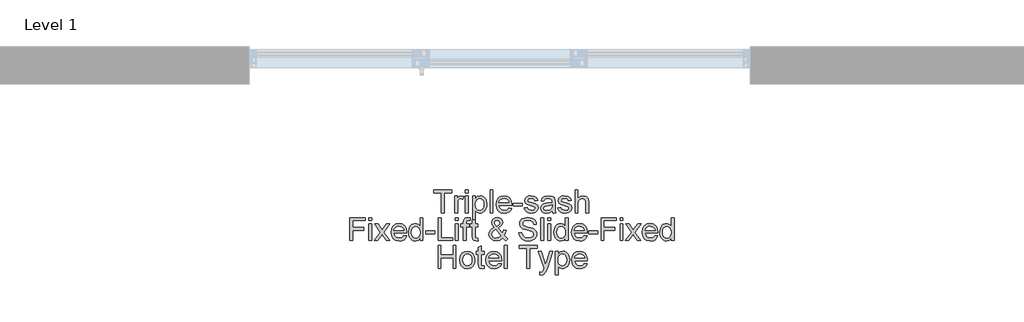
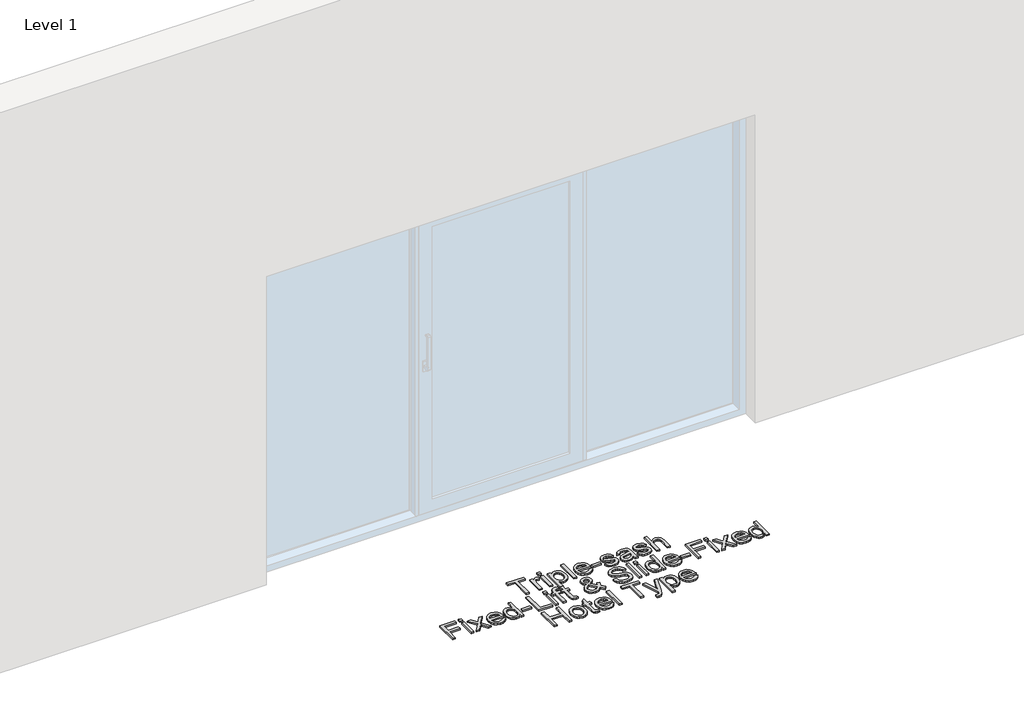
# One storey, part 11 of 17: 1 proxy.
"""IFC4 building model written with IfcOpenShell, lengths in millimetres."""

from ifc_helpers import new_model, si_unit, origin, origin_with_axes, place, context, project, spatial, polyline, outline, extrude, element, save

model = new_model("IFC4")

# Units and contexts
model_context = context("Model", 3, world=origin())
ifc_project = project(units=[si_unit("LENGTHUNIT", "METRE", prefix="MILLI")], contexts=[model_context])

# Site, building, storey
site = spatial("IfcSite", under=ifc_project)
building = spatial("IfcBuilding", under=site)
storey = spatial("IfcBuildingStorey", under=building, Name="Level 1", Elevation=0.0)

# Proxy
placement = place(None, origin())
element("IfcBuildingElementProxy", 1, Name="150mm Arial", ObjectType="150mm Arial", at=placement, inside=storey, context=model_context, shape_type="SweptSolid", body=[
    extrude(outline(polyline([(16044.3509661, -5991.3626427), (16044.3509661, -5859.5137356), (15994.907626, -5859.5137356), (15994.907626, -5840.6781775), (16112.6298644, -5840.6781775), (16112.6298644, -5859.5137356), (16063.1865243, -5859.5137356), (16063.1865243, -5991.3626427), (16044.3509661, -5991.3626427)])), origin_with_axes(), (0.0, 0.0, 1.0), 10.0),
    extrude(outline(polyline([(16131.4654226, -5991.3626427), (16131.4654226, -5880.7037385), (16147.946536, -5880.7037385), (16147.946536, -5897.0744873), (16159.6451834, -5881.9913255), (16171.4174073, -5878.3492938), (16190.3265418, -5884.1618293), (16184.0357597, -5901.0476129), (16170.7920079, -5897.1848519), (16160.1418241, -5900.9004601), (16153.3544013, -5911.2011559), (16150.3009807, -5933.2004992), (16150.3009807, -5991.3626427), (16131.4654226, -5991.3626427)])), origin_with_axes(), (0.0, 0.0, 1.0), 10.0),
    extrude(outline(polyline([(16202.0987657, -5859.5137356), (16202.0987657, -5840.6781775), (16220.9343238, -5840.6781775), (16220.9343238, -5859.5137356), (16202.0987657, -5859.5137356)])), origin_with_axes(), (0.0, 0.0, 1.0), 10.0),
    extrude(outline(polyline([(16202.0987657, -5991.3626427), (16202.0987657, -5880.7037385), (16220.9343238, -5880.7037385), (16220.9343238, -5991.3626427), (16202.0987657, -5991.3626427)])), origin_with_axes(), (0.0, 0.0, 1.0), 10.0),
    extrude(outline(polyline([(16249.1876611, -6033.7426485), (16249.1876611, -5880.7037385), (16268.0232192, -5880.7037385), (16268.0232192, -5899.1714147), (16281.0462418, -5883.554824), (16298.6310012, -5878.3492938), (16311.3689153, -5880.1703096), (16322.5065427, -5885.6333573), (16331.5748339, -5894.4073429), (16338.1047393, -5906.1611726), (16343.3654518, -5935.187062), (16341.8801283, -5951.2956949), (16337.4241576, -5965.7028735), (16330.1400941, -5977.6774325), (16320.170492, -5986.4882062), (16308.5592165, -5991.9098671), (16296.3501328, -5993.7170875), (16279.9609899, -5988.8794392), (16268.0232192, -5976.6473629), (16268.0232192, -6033.7426485), (16249.1876611, -6033.7426485)]), holes=[polyline([(16268.0232192, -5936.9161074), (16270.0603658, -5953.801891), (16276.1718054, -5965.610903), (16285.1895128, -5972.5638727), (16295.9454626, -5974.8815293), (16306.8761564, -5972.4810993), (16316.1237901, -5965.2798092), (16322.4283678, -5953.0385358), (16324.5298937, -5935.5181558), (16322.4789515, -5918.7243427), (16316.3261252, -5906.7497838), (16307.3222133, -5899.5760849), (16296.7180148, -5897.1848519), (16286.0724296, -5899.7278362), (16276.7236284, -5907.3567891), (16270.1983215, -5919.8325872), (16268.0232192, -5936.9161074)])]), origin_with_axes(), (0.0, 0.0, 1.0), 10.0),
    extrude(outline(polyline([(16364.5554547, -5991.3626427), (16364.5554547, -5840.6781775), (16383.3910129, -5840.6781775), (16383.3910129, -5991.3626427), (16364.5554547, -5991.3626427)])), origin_with_axes(), (0.0, 0.0, 1.0), 10.0),
    extrude(outline(polyline([(16489.1202983, -5958.4004159), (16507.5879745, -5960.7548607), (16500.9339089, -5974.6699971), (16490.3159148, -5985.0718606), (16475.9731155, -5991.5557807), (16458.1446343, -5993.7170875), (16436.0441235, -5989.9876837), (16419.0387782, -5978.7994725), (16408.1954564, -5960.8790209), (16404.5810158, -5936.9528956), (16408.2322446, -5912.2220285), (16419.185931, -5893.7267612), (16435.96135, -5882.1936606), (16457.0777765, -5878.3492938), (16477.536614, -5882.1844636), (16493.8843701, -5893.689973), (16504.6035318, -5912.1484521), (16508.1765857, -5936.842531), (16508.0662211, -5941.9193025), (16423.416574, -5941.9193025), (16426.6769281, -5956.01838), (16434.2506987, -5966.3834552), (16445.1813925, -5972.7570108), (16458.5125163, -5974.8815293), (16476.9801925, -5970.9451919), (16489.1202983, -5958.4004159)]), holes=[polyline([(16423.416574, -5923.0837444), (16489.3410275, -5923.0837444), (16486.7934447, -5913.1325364), (16481.7994466, -5906.0140198), (16470.818169, -5899.3921439), (16457.0042001, -5897.1848519), (16444.3076728, -5898.946087), (16433.8092403, -5904.2297921), (16426.5113813, -5912.4657503), (16423.416574, -5923.0837444)])]), origin_with_axes(), (0.0, 0.0, 1.0), 10.0),
    extrude(outline(polyline([(16517.5943647, -5946.6281921), (16517.5943647, -5927.7926339), (16576.455484, -5927.7926339), (16576.455484, -5946.6281921), (16517.5943647, -5946.6281921)])), origin_with_axes(), (0.0, 0.0, 1.0), 10.0),
    extrude(outline(polyline([(16590.5821526, -5958.4004159), (16609.4177107, -5956.0459711), (16612.3883578, -5964.1025868), (16618.136514, -5970.025487), (16638.1125064, -5974.8815293), (16657.3159465, -5970.4301572), (16663.5699404, -5959.9823085), (16661.9972449, -5955.1814485), (16657.2791583, -5951.5210226), (16637.8917772, -5946.1499455), (16609.5280753, -5936.9345015), (16597.1488462, -5926.1739531), (16592.9365973, -5910.9804267), (16596.3211117, -5896.9457286), (16605.5549498, -5886.2219685), (16617.5295087, -5880.6485562), (16633.7347106, -5878.3492938), (16656.6537589, -5882.0465078), (16671.2218859, -5892.0528981), (16677.696609, -5908.9570758), (16658.8610509, -5911.3115205), (16651.7793225, -5900.9188542), (16635.2062386, -5897.1848519), (16617.1800208, -5900.7533073), (16611.7721555, -5909.0674404), (16614.0162357, -5914.5488821), (16621.0427818, -5918.7059486), (16637.2663778, -5922.7158624), (16664.9127097, -5931.5818185), (16677.7517913, -5941.6249969), (16682.4054986, -5957.9957457), (16676.9424509, -5976.0219635), (16661.1787074, -5989.1001684), (16637.854989, -5993.7170875), (16618.863081, -5991.4914014), (16605.0031268, -5984.8143432), (16595.7508946, -5973.7594892), (16590.5821526, -5958.4004159)])), origin_with_axes(), (0.0, 0.0, 1.0), 10.0),
    extrude(outline(polyline([(16774.2288446, -5977.2359741), (16755.9635035, -5990.0014793), (16735.7851761, -5993.7170875), (16720.0444252, -5991.4822043), (16708.4331497, -5984.777555), (16701.2732464, -5974.5964208), (16698.886612, -5961.9320831), (16702.4918555, -5947.0328623), (16711.9648169, -5936.2171316), (16725.1533864, -5930.0367141), (16741.4505588, -5927.2040227), (16774.11848, -5920.7292996), (16774.2288446, -5916.5354449), (16772.9320605, -5908.1293413), (16769.0417084, -5902.6295054), (16760.3412992, -5898.5460153), (16748.2195875, -5897.1848519), (16729.1633002, -5900.8084896), (16720.0766149, -5913.6659653), (16701.2410567, -5911.3115205), (16709.3896429, -5892.9174208), (16725.7971799, -5882.1384783), (16750.6476087, -5878.3492938), (16773.4746865, -5881.6970199), (16786.3689504, -5890.1031235), (16792.1446977, -5902.8870228), (16793.0644027, -5919.3681362), (16793.0644027, -5942.8022193), (16794.0208959, -5975.5253228), (16797.7732923, -5991.3626427), (16778.9377341, -5991.3626427), (16774.2288446, -5977.2359741)]), holes=[polyline([(16774.2288446, -5939.5648578), (16743.8417918, -5945.3406051), (16727.6365899, -5948.3940256), (16720.2973441, -5953.3604326), (16717.7221701, -5960.6077079), (16723.3323705, -5970.7980392), (16739.7950898, -5974.8815293), (16758.8513772, -5970.3749749), (16771.1386358, -5959.4672737), (16774.11848, -5944.8991467), (16774.2288446, -5939.5648578)])]), origin_with_axes(), (0.0, 0.0, 1.0), 10.0),
    extrude(outline(polyline([(16811.8999609, -5958.4004159), (16830.735519, -5956.0459711), (16833.7061661, -5964.1025868), (16839.4543223, -5970.025487), (16859.4303147, -5974.8815293), (16878.6337548, -5970.4301572), (16884.8877487, -5959.9823085), (16883.3150532, -5955.1814485), (16878.5969666, -5951.5210226), (16859.2095855, -5946.1499455), (16830.8458836, -5936.9345015), (16818.4666545, -5926.1739531), (16814.2544056, -5910.9804267), (16817.63892, -5896.9457286), (16826.8727581, -5886.2219685), (16838.847317, -5880.6485562), (16855.0525189, -5878.3492938), (16877.9715672, -5882.0465078), (16892.5396942, -5892.0528981), (16899.0144173, -5908.9570758), (16880.1788592, -5911.3115205), (16873.0971308, -5900.9188542), (16856.5240469, -5897.1848519), (16838.4978291, -5900.7533073), (16833.0899638, -5909.0674404), (16835.334044, -5914.5488821), (16842.3605901, -5918.7059486), (16858.5841861, -5922.7158624), (16886.230518, -5931.5818185), (16899.0695996, -5941.6249969), (16903.7233069, -5957.9957457), (16898.2602592, -5976.0219635), (16882.4965157, -5989.1001684), (16859.1727973, -5993.7170875), (16840.1808893, -5991.4914014), (16826.3209351, -5984.8143432), (16817.0687029, -5973.7594892), (16811.8999609, -5958.4004159)])), origin_with_axes(), (0.0, 0.0, 1.0), 10.0),
    extrude(outline(polyline([(16924.9133098, -5991.3626427), (16924.9133098, -5840.6781775), (16943.7488679, -5840.6781775), (16943.7488679, -5896.0812059), (16958.4365566, -5882.7822718), (16976.5271537, -5878.3492938), (16997.6803684, -5883.186942), (17010.5194501, -5896.5594525), (17014.382211, -5921.3179108), (17014.382211, -5991.3626427), (16995.5466529, -5991.3626427), (16995.5466529, -5923.2676854), (16994.0475337, -5911.4770674), (16989.5501763, -5903.4020576), (16982.302901, -5898.7391533), (16972.5540282, -5897.1848519), (16957.1213785, -5901.3787067), (16946.8206826, -5912.7462603), (16943.7488679, -5932.5750999), (16943.7488679, -5991.3626427), (16924.9133098, -5991.3626427)])), origin_with_axes(), (0.0, 0.0, 1.0), 10.0),
    extrude(outline(polyline([(15441.6131052, -6174.3248694), (15441.6131052, -6023.6404042), (15542.8542303, -6023.6404042), (15542.8542303, -6042.4759624), (15460.4486634, -6042.4759624), (15460.4486634, -6087.210413), (15531.0820065, -6087.210413), (15531.0820065, -6106.0459711), (15460.4486634, -6106.0459711), (15460.4486634, -6174.3248694), (15441.6131052, -6174.3248694)])), origin_with_axes(), (0.0, 0.0, 1.0), 10.0),
    extrude(outline(polyline([(15566.398678, -6042.4759624), (15566.398678, -6023.6404042), (15585.2342362, -6023.6404042), (15585.2342362, -6042.4759624), (15566.398678, -6042.4759624)])), origin_with_axes(), (0.0, 0.0, 1.0), 10.0),
    extrude(outline(polyline([(15566.398678, -6174.3248694), (15566.398678, -6063.6659653), (15585.2342362, -6063.6659653), (15585.2342362, -6174.3248694), (15566.398678, -6174.3248694)])), origin_with_axes(), (0.0, 0.0, 1.0), 10.0),
    extrude(outline(polyline([(15601.7153495, -6174.3248694), (15641.9616398, -6118.7011118), (15604.0697943, -6063.6659653), (15626.7313252, -6063.6659653), (15645.0150604, -6090.153469), (15653.5499227, -6102.6614568), (15660.9443508, -6092.4343373), (15681.7664717, -6063.6659653), (15704.4280026, -6063.6659653), (15664.6231707, -6118.7011118), (15702.9564746, -6174.3248694), (15680.2949437, -6174.3248694), (15657.2287426, -6140.8843961), (15652.9980997, -6134.777555), (15624.3768804, -6174.3248694), (15601.7153495, -6174.3248694)])), origin_with_axes(), (0.0, 0.0, 1.0), 10.0),
    extrude(outline(polyline([(15796.9135362, -6141.3626427), (15815.3812123, -6143.7170875), (15808.7271468, -6157.6322239), (15798.1091527, -6168.0340873), (15783.7663534, -6174.5180075), (15765.9378722, -6176.6793142), (15743.8373613, -6172.9499105), (15726.8320161, -6161.7616993), (15715.9886943, -6143.8412476), (15712.3742537, -6119.9151224), (15716.0254825, -6095.1842552), (15726.9791689, -6076.6889879), (15743.7545879, -6065.1558874), (15764.8710144, -6061.3115205), (15785.3298519, -6065.1466903), (15801.677608, -6076.6521997), (15812.3967697, -6095.1106788), (15815.9698235, -6119.8047578), (15815.8594589, -6124.8815293), (15731.2098118, -6124.8815293), (15734.470166, -6138.9806068), (15742.0439366, -6149.345682), (15752.9746304, -6155.7192375), (15766.3057542, -6157.8437561), (15784.7734303, -6153.9074187), (15796.9135362, -6141.3626427)]), holes=[polyline([(15731.2098118, -6106.0459711), (15797.1342654, -6106.0459711), (15794.5866826, -6096.0947632), (15789.5926845, -6088.9762466), (15778.6114069, -6082.3543707), (15764.797438, -6080.1470787), (15752.1009106, -6081.9083137), (15741.6024782, -6087.1920189), (15734.3046191, -6095.4279771), (15731.2098118, -6106.0459711)])]), origin_with_axes(), (0.0, 0.0, 1.0), 10.0),
    extrude(outline(polyline([(15903.08428, -6174.3248694), (15903.08428, -6156.5561691), (15890.6222774, -6171.6485279), (15873.396203, -6176.6793142), (15861.2193089, -6174.8582983), (15850.0724845, -6169.3952507), (15840.6363113, -6160.6718489), (15833.5913711, -6149.0697705), (15829.2043783, -6135.058065), (15827.7420474, -6119.105782), (15833.1315186, -6089.1233994), (15839.8637591, -6077.2316139), (15849.2815382, -6068.4852194), (15860.6720845, -6063.1049453), (15873.3226266, -6061.3115205), (15890.6866568, -6066.4434744), (15903.08428, -6079.7791967), (15903.08428, -6023.6404042), (15921.9198381, -6023.6404042), (15921.9198381, -6174.3248694), (15903.08428, -6174.3248694)]), holes=[polyline([(15846.5776055, -6119.0322056), (15848.7021241, -6136.0697405), (15855.0756796, -6148.1868537), (15864.3371088, -6155.4295305), (15875.1252484, -6157.8437561), (15885.9087893, -6155.5398951), (15894.9356938, -6148.6283121), (15901.0471334, -6136.9802484), (15903.08428, -6120.4669454), (15901.0103452, -6102.4131364), (15894.788541, -6089.8959516), (15885.5317103, -6082.5842969), (15874.3526962, -6080.1470787), (15863.4541921, -6082.4877279), (15854.5238566, -6089.5096755), (15848.5641683, -6101.5716064), (15846.5776055, -6119.0322056)])]), origin_with_axes(), (0.0, 0.0, 1.0), 10.0),
    extrude(outline(polyline([(15940.7553963, -6129.5904188), (15940.7553963, -6110.7548607), (15999.6165155, -6110.7548607), (15999.6165155, -6129.5904188), (15940.7553963, -6129.5904188)])), origin_with_axes(), (0.0, 0.0, 1.0), 10.0),
    extrude(outline(polyline([(16023.1609632, -6174.3248694), (16023.1609632, -6023.6404042), (16041.9965214, -6023.6404042), (16041.9965214, -6155.4893113), (16117.338754, -6155.4893113), (16117.338754, -6174.3248694), (16023.1609632, -6174.3248694)])), origin_with_axes(), (0.0, 0.0, 1.0), 10.0),
    extrude(outline(polyline([(16136.1743121, -6042.4759624), (16136.1743121, -6023.6404042), (16155.0098703, -6023.6404042), (16155.0098703, -6042.4759624), (16136.1743121, -6042.4759624)])), origin_with_axes(), (0.0, 0.0, 1.0), 10.0),
    extrude(outline(polyline([(16136.1743121, -6174.3248694), (16136.1743121, -6063.6659653), (16155.0098703, -6063.6659653), (16155.0098703, -6174.3248694), (16136.1743121, -6174.3248694)])), origin_with_axes(), (0.0, 0.0, 1.0), 10.0),
    extrude(outline(polyline([(16284.5043326, -6158.6163083), (16286.8587774, -6174.8766924), (16272.7688969, -6176.6793142), (16256.9867593, -6173.5523173), (16249.1140847, -6165.3485488), (16246.8332163, -6143.9746048), (16246.8332163, -6082.5015235), (16232.7065477, -6082.5015235), (16232.7065477, -6063.6659653), (16246.8332163, -6063.6659653), (16246.8332163, -6036.7737915), (16265.6687744, -6025.7005434), (16265.6687744, -6063.6659653), (16284.5043326, -6063.6659653), (16284.5043326, -6082.5015235), (16265.6687744, -6082.5015235), (16265.6687744, -6143.4227819), (16266.6620558, -6153.1348665), (16269.8810233, -6156.5745632), (16276.3005641, -6157.8437561), (16284.5043326, -6158.6163083)])), origin_with_axes(), (0.0, 0.0, 1.0), 10.0),
    extrude(outline(polyline([(16187.9720971, -6174.3248694), (16187.9720971, -6082.5015235), (16171.4909837, -6082.5015235), (16171.4909837, -6063.6659653), (16187.9720971, -6063.6659653), (16187.9720971, -6052.5191408), (16189.9586598, -6036.8105797), (16199.5971681, -6025.5901788), (16218.5798791, -6021.2859595), (16235.7599682, -6023.3460986), (16233.0008533, -6041.0044344), (16222.1483344, -6040.1215176), (16210.2841401, -6043.2485146), (16206.8076552, -6054.9103738), (16206.8076552, -6063.6659653), (16227.9976581, -6063.6659653), (16227.9976581, -6082.5015235), (16206.8076552, -6082.5015235), (16206.8076552, -6174.3248694), (16187.9720971, -6174.3248694)])), origin_with_axes(), (0.0, 0.0, 1.0), 10.0),
    extrude(outline(polyline([(16448.6164906, -6155.7100405), (16428.6404983, -6171.4369958), (16405.2799916, -6176.6793142), (16384.4946589, -6172.7981592), (16368.4917921, -6161.154694), (16360.2420383, -6147.7545923), (16357.4921204, -6132.8645686), (16359.7040109, -6119.666802), (16366.3396824, -6107.8118047), (16377.3715437, -6097.3087738), (16392.7720038, -6088.1669062), (16379.6202224, -6069.1106188), (16376.3276786, -6054.9839502), (16378.9212467, -6042.2644302), (16386.7019508, -6031.3291379), (16398.4097953, -6023.7967541), (16412.7847843, -6021.2859595), (16426.4607975, -6023.6863895), (16437.3960898, -6030.8876795), (16444.5697887, -6041.4550898), (16446.9610217, -6053.9538806), (16445.1905896, -6064.4477145), (16439.8792933, -6074.1506022), (16418.634108, -6091.1835385), (16445.8941639, -6125.1390467), (16454.024356, -6104.2801376), (16472.8599141, -6108.3636277), (16459.5425859, -6139.3760799), (16482.2776932, -6162.1847636), (16468.1510246, -6176.6793142), (16448.6164906, -6155.7100405)]), holes=[polyline([(16409.1059644, -6079.3009501), (16424.5937964, -6067.6206967), (16428.1254635, -6056.5290546), (16423.4717563, -6044.7016484), (16411.8282911, -6040.1215176), (16399.9273086, -6044.6648602), (16395.1632367, -6055.7565024), (16396.7819175, -6062.6542898), (16401.6747481, -6070.3246294), (16409.1059644, -6079.3009501)]), polyline([(16435.9981382, -6142.1351949), (16402.3737238, -6100.1598592), (16381.6803616, -6115.9419968), (16376.3276786, -6130.362971), (16378.1578915, -6139.2473212), (16383.6485303, -6148.4627652), (16392.4960923, -6155.4985083), (16404.3970748, -6157.8437561), (16421.7059227, -6153.4659603), (16435.9981382, -6142.1351949)])]), origin_with_axes(), (0.0, 0.0, 1.0), 10.0),
    extrude(outline(polyline([(16555.265481, -6122.5270845), (16574.1010392, -6122.5270845), (16580.1710921, -6141.3810368), (16594.9967365, -6153.3004134), (16617.584691, -6157.8437561), (16637.2663778, -6154.4040594), (16649.9767007, -6144.9494921), (16654.1521613, -6132.3127456), (16651.0251644, -6120.5589159), (16638.222871, -6112.0056595), (16610.7972682, -6104.8135665), (16581.2747381, -6095.5245461), (16565.2534772, -6081.5082421), (16559.9743706, -6062.7830485), (16561.6068469, -6051.7511872), (16566.504276, -6041.4642869), (16574.5378991, -6032.7454836), (16585.5789574, -6026.4179133), (16613.5012009, -6021.2859595), (16643.2996425, -6026.6570366), (16654.7223784, -6033.2881095), (16663.1652702, -6042.4391742), (16668.5087562, -6053.5400134), (16670.6332747, -6066.0204101), (16651.7977166, -6066.0204101), (16648.3396258, -6054.7816151), (16641.1291387, -6046.6698171), (16629.8627526, -6041.7585925), (16614.2369649, -6040.1215176), (16598.2432951, -6041.7401984), (16587.2712146, -6046.5962407), (16580.9252502, -6053.7423485), (16578.8099287, -6062.2312255), (16580.3090479, -6069.4693038), (16584.8064053, -6075.2910363), (16615.56134, -6085.8124614), (16648.8914488, -6095.2670287), (16659.6290045, -6102.1004367), (16667.1200017, -6110.5341315), (16671.52079, -6120.4761424), (16672.9877195, -6131.834499), (16671.3000608, -6143.4457745), (16666.2370849, -6154.3672712), (16658.0057252, -6163.7666562), (16646.8129155, -6170.8115964), (16633.353033, -6175.2123848), (16618.320455, -6176.6793142), (16599.8665744, -6175.0974216), (16584.6776466, -6170.3517439), (16572.5789274, -6162.4238869), (16563.3956731, -6151.2954566), (16557.5003642, -6137.739005), (16555.265481, -6122.5270845)])), origin_with_axes(), (0.0, 0.0, 1.0), 10.0),
    extrude(outline(polyline([(16698.886612, -6174.3248694), (16698.886612, -6023.6404042), (16717.7221701, -6023.6404042), (16717.7221701, -6174.3248694), (16698.886612, -6174.3248694)])), origin_with_axes(), (0.0, 0.0, 1.0), 10.0),
    extrude(outline(polyline([(16745.9755073, -6042.4759624), (16745.9755073, -6023.6404042), (16764.8110655, -6023.6404042), (16764.8110655, -6042.4759624), (16745.9755073, -6042.4759624)])), origin_with_axes(), (0.0, 0.0, 1.0), 10.0),
    extrude(outline(polyline([(16745.9755073, -6174.3248694), (16745.9755073, -6063.6659653), (16764.8110655, -6063.6659653), (16764.8110655, -6174.3248694), (16745.9755073, -6174.3248694)])), origin_with_axes(), (0.0, 0.0, 1.0), 10.0),
    extrude(outline(polyline([(16861.343301, -6174.3248694), (16861.343301, -6156.5561691), (16848.8812984, -6171.6485279), (16831.655224, -6176.6793142), (16819.47833, -6174.8582983), (16808.3315055, -6169.3952507), (16798.8953323, -6160.6718489), (16791.8503921, -6149.0697705), (16787.4633993, -6135.058065), (16786.0010684, -6119.105782), (16791.3905396, -6089.1233994), (16798.1227802, -6077.2316139), (16807.5405592, -6068.4852194), (16818.9311055, -6063.1049453), (16831.5816476, -6061.3115205), (16848.9456778, -6066.4434744), (16861.343301, -6079.7791967), (16861.343301, -6023.6404042), (16880.1788592, -6023.6404042), (16880.1788592, -6174.3248694), (16861.343301, -6174.3248694)]), holes=[polyline([(16804.8366266, -6119.0322056), (16806.9611451, -6136.0697405), (16813.3347007, -6148.1868537), (16822.5961299, -6155.4295305), (16833.3842694, -6157.8437561), (16844.1678104, -6155.5398951), (16853.1947148, -6148.6283121), (16859.3061545, -6136.9802484), (16861.343301, -6120.4669454), (16859.2693663, -6102.4131364), (16853.047562, -6089.8959516), (16843.7907313, -6082.5842969), (16832.6117172, -6080.1470787), (16821.7132131, -6082.4877279), (16812.7828777, -6089.5096755), (16806.8231893, -6101.5716064), (16804.8366266, -6119.0322056)])]), origin_with_axes(), (0.0, 0.0, 1.0), 10.0),
    extrude(outline(polyline([(16985.9081446, -6141.3626427), (17004.3758208, -6143.7170875), (16997.7217552, -6157.6322239), (16987.1037611, -6168.0340873), (16972.7609618, -6174.5180075), (16954.9324806, -6176.6793142), (16932.8319697, -6172.9499105), (16915.8266245, -6161.7616993), (16904.9833027, -6143.8412476), (16901.3688621, -6119.9151224), (16905.0200909, -6095.1842552), (16915.9737773, -6076.6889879), (16932.7491963, -6065.1558874), (16953.8656228, -6061.3115205), (16974.3244603, -6065.1466903), (16990.6722164, -6076.6521997), (17001.3913781, -6095.1106788), (17004.9644319, -6119.8047578), (17004.8540673, -6124.8815293), (16920.2044203, -6124.8815293), (16923.4647744, -6138.9806068), (16931.038545, -6149.345682), (16941.9692388, -6155.7192375), (16955.3003626, -6157.8437561), (16973.7680388, -6153.9074187), (16985.9081446, -6141.3626427)]), holes=[polyline([(16920.2044203, -6106.0459711), (16986.1288738, -6106.0459711), (16983.581291, -6096.0947632), (16978.5872929, -6088.9762466), (16967.6060153, -6082.3543707), (16953.7920464, -6080.1470787), (16941.0955191, -6081.9083137), (16930.5970866, -6087.1920189), (16923.2992275, -6095.4279771), (16920.2044203, -6106.0459711)])]), origin_with_axes(), (0.0, 0.0, 1.0), 10.0),
    extrude(outline(polyline([(17014.382211, -6129.5904188), (17014.382211, -6110.7548607), (17073.2433302, -6110.7548607), (17073.2433302, -6129.5904188), (17014.382211, -6129.5904188)])), origin_with_axes(), (0.0, 0.0, 1.0), 10.0),
    extrude(outline(polyline([(17096.7877779, -6174.3248694), (17096.7877779, -6023.6404042), (17198.028903, -6023.6404042), (17198.028903, -6042.4759624), (17115.6233361, -6042.4759624), (17115.6233361, -6087.210413), (17186.2566792, -6087.210413), (17186.2566792, -6106.0459711), (17115.6233361, -6106.0459711), (17115.6233361, -6174.3248694), (17096.7877779, -6174.3248694)])), origin_with_axes(), (0.0, 0.0, 1.0), 10.0),
    extrude(outline(polyline([(17221.5733507, -6042.4759624), (17221.5733507, -6023.6404042), (17240.4089089, -6023.6404042), (17240.4089089, -6042.4759624), (17221.5733507, -6042.4759624)])), origin_with_axes(), (0.0, 0.0, 1.0), 10.0),
    extrude(outline(polyline([(17221.5733507, -6174.3248694), (17221.5733507, -6063.6659653), (17240.4089089, -6063.6659653), (17240.4089089, -6174.3248694), (17221.5733507, -6174.3248694)])), origin_with_axes(), (0.0, 0.0, 1.0), 10.0),
    extrude(outline(polyline([(17256.8900222, -6174.3248694), (17297.1363125, -6118.7011118), (17259.244467, -6063.6659653), (17281.9059979, -6063.6659653), (17300.1897331, -6090.153469), (17308.7245954, -6102.6614568), (17316.1190235, -6092.4343373), (17336.9411444, -6063.6659653), (17359.6026753, -6063.6659653), (17319.7978434, -6118.7011118), (17358.1311473, -6174.3248694), (17335.4696164, -6174.3248694), (17312.4034153, -6140.8843961), (17308.1727724, -6134.777555), (17279.5515531, -6174.3248694), (17256.8900222, -6174.3248694)])), origin_with_axes(), (0.0, 0.0, 1.0), 10.0),
    extrude(outline(polyline([(17452.0882089, -6141.3626427), (17470.555885, -6143.7170875), (17463.9018195, -6157.6322239), (17453.2838254, -6168.0340873), (17438.9410261, -6174.5180075), (17421.1125449, -6176.6793142), (17399.012034, -6172.9499105), (17382.0066888, -6161.7616993), (17371.163367, -6143.8412476), (17367.5489264, -6119.9151224), (17371.2001552, -6095.1842552), (17382.1538416, -6076.6889879), (17398.9292606, -6065.1558874), (17420.0456871, -6061.3115205), (17440.5045246, -6065.1466903), (17456.8522807, -6076.6521997), (17467.5714424, -6095.1106788), (17471.1444962, -6119.8047578), (17471.0341316, -6124.8815293), (17386.3844845, -6124.8815293), (17389.6448387, -6138.9806068), (17397.2186093, -6149.345682), (17408.1493031, -6155.7192375), (17421.4804269, -6157.8437561), (17439.948103, -6153.9074187), (17452.0882089, -6141.3626427)]), holes=[polyline([(17386.3844845, -6106.0459711), (17452.3089381, -6106.0459711), (17449.7613553, -6096.0947632), (17444.7673572, -6088.9762466), (17433.7860796, -6082.3543707), (17419.9721107, -6080.1470787), (17407.2755833, -6081.9083137), (17396.7771509, -6087.1920189), (17389.4792918, -6095.4279771), (17386.3844845, -6106.0459711)])]), origin_with_axes(), (0.0, 0.0, 1.0), 10.0),
    extrude(outline(polyline([(17558.2589527, -6174.3248694), (17558.2589527, -6156.5561691), (17545.7969501, -6171.6485279), (17528.5708757, -6176.6793142), (17516.3939816, -6174.8582983), (17505.2471572, -6169.3952507), (17495.810984, -6160.6718489), (17488.7660438, -6149.0697705), (17484.379051, -6135.058065), (17482.9167201, -6119.105782), (17488.3061913, -6089.1233994), (17495.0384318, -6077.2316139), (17504.4562109, -6068.4852194), (17515.8467572, -6063.1049453), (17528.4972993, -6061.3115205), (17545.8613295, -6066.4434744), (17558.2589527, -6079.7791967), (17558.2589527, -6023.6404042), (17577.0945108, -6023.6404042), (17577.0945108, -6174.3248694), (17558.2589527, -6174.3248694)]), holes=[polyline([(17501.7522782, -6119.0322056), (17503.8767968, -6136.0697405), (17510.2503523, -6148.1868537), (17519.5117815, -6155.4295305), (17530.2999211, -6157.8437561), (17541.083462, -6155.5398951), (17550.1103665, -6148.6283121), (17556.2218061, -6136.9802484), (17558.2589527, -6120.4669454), (17556.1850179, -6102.4131364), (17549.9632137, -6089.8959516), (17540.706383, -6082.5842969), (17529.5273689, -6080.1470787), (17518.6288648, -6082.4877279), (17509.6985293, -6089.5096755), (17503.738841, -6101.5716064), (17501.7522782, -6119.0322056)])]), origin_with_axes(), (0.0, 0.0, 1.0), 10.0),
    extrude(outline(polyline([(16021.9837408, -6357.2870962), (16021.9837408, -6206.602631), (16040.819299, -6206.602631), (16040.819299, -6267.818195), (16120.8704211, -6267.818195), (16120.8704211, -6206.602631), (16139.7059793, -6206.602631), (16139.7059793, -6357.2870962), (16120.8704211, -6357.2870962), (16120.8704211, -6286.6537531), (16040.819299, -6286.6537531), (16040.819299, -6357.2870962), (16021.9837408, -6357.2870962)])), origin_with_axes(), (0.0, 0.0, 1.0), 10.0),
    extrude(outline(polyline([(16165.6048717, -6301.9576441), (16169.6791648, -6275.2770024), (16181.9020441, -6256.5242177), (16197.0036, -6247.3363649), (16215.0850001, -6244.2737473), (16234.8724529, -6248.003151), (16250.6775831, -6259.1913622), (16261.0380598, -6276.955464), (16264.4915521, -6300.4125398), (16262.9648418, -6319.441236), (16258.3847109, -6333.9265895), (16250.8845168, -6344.7745099), (16240.5976165, -6352.8909064), (16228.3793357, -6357.9538823), (16215.0850001, -6359.641541), (16195.058424, -6355.9259328), (16179.2716879, -6344.7791084), (16169.0215758, -6326.642526), (16165.6048717, -6301.9576441)]), holes=[polyline([(16184.4404299, -6301.9208559), (16186.6201307, -6318.9675879), (16193.1592332, -6331.1122923), (16203.0000766, -6338.3825602), (16215.0850001, -6340.8059828), (16227.1147413, -6338.3687646), (16236.9371906, -6331.05711), (16243.4762931, -6318.7514572), (16245.6559939, -6301.3322448), (16243.4624975, -6284.7821535), (16236.8820083, -6272.802996), (16227.0457635, -6265.5327281), (16215.0850001, -6263.1093055), (16203.0000766, -6265.523531), (16193.1592332, -6272.7662078), (16186.6201307, -6284.883321), (16184.4404299, -6301.9208559)])]), origin_with_axes(), (0.0, 0.0, 1.0), 10.0),
    extrude(outline(polyline([(16325.707116, -6341.578535), (16328.0615608, -6357.8389192), (16313.9716804, -6359.641541), (16298.1895428, -6356.514544), (16290.3168681, -6348.3107755), (16288.0359997, -6326.9368316), (16288.0359997, -6265.4637502), (16273.9093311, -6265.4637502), (16273.9093311, -6246.6281921), (16288.0359997, -6246.6281921), (16288.0359997, -6219.7360182), (16306.8715579, -6208.6627702), (16306.8715579, -6246.6281921), (16325.707116, -6246.6281921), (16325.707116, -6265.4637502), (16306.8715579, -6265.4637502), (16306.8715579, -6326.3850086), (16307.8648393, -6336.0970933), (16311.0838067, -6339.5367899), (16317.5033476, -6340.8059828), (16325.707116, -6341.578535)])), origin_with_axes(), (0.0, 0.0, 1.0), 10.0),
    extrude(outline(polyline([(16422.0186224, -6324.3248694), (16440.4862985, -6326.6793142), (16433.832233, -6340.5944507), (16423.2142389, -6350.9963141), (16408.8714396, -6357.4802343), (16391.0429584, -6359.641541), (16368.9424475, -6355.9121373), (16351.9371023, -6344.7239261), (16341.0937805, -6326.8034744), (16337.4793399, -6302.8773491), (16341.1305687, -6278.146482), (16352.0842551, -6259.6512147), (16368.8596741, -6248.1181141), (16389.9761006, -6244.2737473), (16410.4349381, -6248.1089171), (16426.7826942, -6259.6144265), (16437.5018559, -6278.0729056), (16441.0749097, -6302.7669845), (16440.9645451, -6307.8437561), (16356.314898, -6307.8437561), (16359.5752522, -6321.9428335), (16367.1490228, -6332.3079087), (16378.0797166, -6338.6814643), (16391.4108404, -6340.8059828), (16409.8785165, -6336.8696455), (16422.0186224, -6324.3248694)]), holes=[polyline([(16356.314898, -6289.0081979), (16422.2393516, -6289.0081979), (16419.6917688, -6279.0569899), (16414.6977707, -6271.9384733), (16403.7164931, -6265.3165974), (16389.9025242, -6263.1093055), (16377.2059968, -6264.8705405), (16366.7075644, -6270.1542457), (16359.4097053, -6278.3902038), (16356.314898, -6289.0081979)])]), origin_with_axes(), (0.0, 0.0, 1.0), 10.0),
    extrude(outline(polyline([(16459.9104679, -6357.2870962), (16459.9104679, -6206.602631), (16478.746026, -6206.602631), (16478.746026, -6357.2870962), (16459.9104679, -6357.2870962)])), origin_with_axes(), (0.0, 0.0, 1.0), 10.0),
    extrude(outline(polyline([(16605.8860436, -6357.2870962), (16605.8860436, -6225.4381891), (16556.4427034, -6225.4381891), (16556.4427034, -6206.602631), (16674.1649419, -6206.602631), (16674.1649419, -6225.4381891), (16624.7216017, -6225.4381891), (16624.7216017, -6357.2870962), (16605.8860436, -6357.2870962)])), origin_with_axes(), (0.0, 0.0, 1.0), 10.0),
    extrude(outline(polyline([(16693.0005, -6399.6671021), (16690.6460553, -6381.5305197), (16700.2109871, -6383.1859887), (16709.1505196, -6381.1074554), (16714.6319613, -6375.313314), (16719.7823093, -6361.4441628), (16721.2538373, -6356.882426), (16681.2282762, -6246.6281921), (16701.0939039, -6246.6281921), (16722.320695, -6308.0644853), (16729.7151232, -6332.6390025), (16737.1095513, -6310.9339648), (16758.9249536, -6246.6281921), (16778.6434285, -6246.6281921), (16740.1261836, -6359.9358466), (16730.1197933, -6384.5103639), (16719.1936981, -6397.7909039), (16704.5152065, -6402.0215468), (16693.0005, -6399.6671021)])), origin_with_axes(), (0.0, 0.0, 1.0), 10.0),
    extrude(outline(polyline([(16794.2416251, -6399.6671021), (16794.2416251, -6246.6281921), (16813.0771833, -6246.6281921), (16813.0771833, -6265.0958682), (16826.1002059, -6249.4792775), (16843.6849653, -6244.2737473), (16856.4228793, -6246.0947632), (16867.5605067, -6251.5578108), (16876.6287979, -6260.3317964), (16883.1587033, -6272.0856261), (16888.4194159, -6301.1115156), (16886.9340923, -6317.2201484), (16882.4781216, -6331.6273271), (16875.1940581, -6343.601886), (16865.2244561, -6352.4126598), (16853.6131806, -6357.8343207), (16841.4040969, -6359.641541), (16825.014954, -6354.8038927), (16813.0771833, -6342.5718164), (16813.0771833, -6399.6671021), (16794.2416251, -6399.6671021)]), holes=[polyline([(16813.0771833, -6302.8405609), (16815.1143298, -6319.7263445), (16821.2257695, -6331.5353566), (16830.2434769, -6338.4883263), (16840.9994267, -6340.8059828), (16851.9301205, -6338.4055528), (16861.1777541, -6331.2042628), (16867.4823318, -6318.9629894), (16869.5838577, -6301.4426093), (16867.5329156, -6284.6487963), (16861.3800892, -6272.6742373), (16852.3761774, -6265.5005384), (16841.7719789, -6263.1093055), (16831.1263936, -6265.6522897), (16821.7775924, -6273.2812426), (16815.2522856, -6285.7570408), (16813.0771833, -6302.8405609)])]), origin_with_axes(), (0.0, 0.0, 1.0), 10.0),
    extrude(outline(polyline([(16987.085367, -6324.3248694), (17005.5530431, -6326.6793142), (16998.8989775, -6340.5944507), (16988.2809835, -6350.9963141), (16973.9381842, -6357.4802343), (16956.109703, -6359.641541), (16934.0091921, -6355.9121373), (16917.0038469, -6344.7239261), (16906.1605251, -6326.8034744), (16902.5460845, -6302.8773491), (16906.1973133, -6278.146482), (16917.1509997, -6259.6512147), (16933.9264187, -6248.1181141), (16955.0428452, -6244.2737473), (16975.5016827, -6248.1089171), (16991.8494388, -6259.6144265), (17002.5686004, -6278.0729056), (17006.1416543, -6302.7669845), (17006.0312897, -6307.8437561), (16921.3816426, -6307.8437561), (16924.6419968, -6321.9428335), (16932.2157674, -6332.3079087), (16943.1464612, -6338.6814643), (16956.477585, -6340.8059828), (16974.9452611, -6336.8696455), (16987.085367, -6324.3248694)]), holes=[polyline([(16921.3816426, -6289.0081979), (16987.3060962, -6289.0081979), (16984.7585134, -6279.0569899), (16979.7645153, -6271.9384733), (16968.7832377, -6265.3165974), (16954.9692688, -6263.1093055), (16942.2727414, -6264.8705405), (16931.774309, -6270.1542457), (16924.4764499, -6278.3902038), (16921.3816426, -6289.0081979)])]), origin_with_axes(), (0.0, 0.0, 1.0), 10.0),
])

save(model, "model.ifc")
